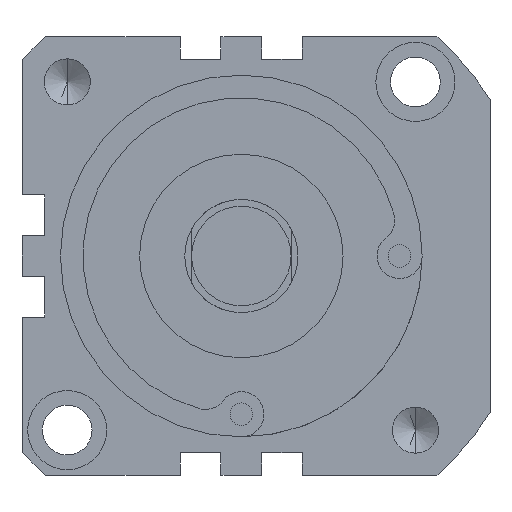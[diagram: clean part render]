
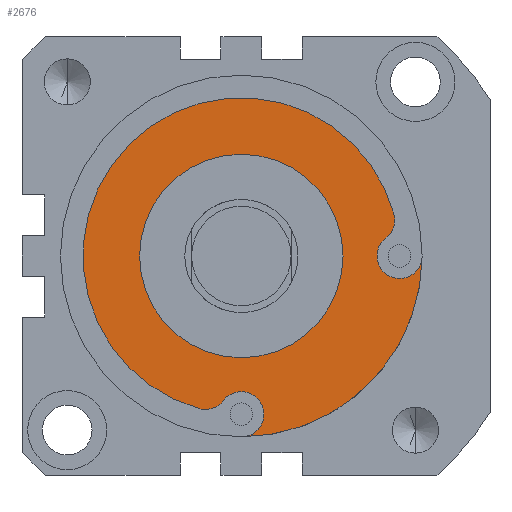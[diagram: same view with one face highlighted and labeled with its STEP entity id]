
A CAD part, front view. The second image highlights one B-rep face of the part: STEP entity #2676.
In plain terms, the highlighted planar face has unit normal (0, -1, 0).
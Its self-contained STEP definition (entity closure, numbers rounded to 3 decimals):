
#44 = EDGE_CURVE ( 'NONE', #718, #3087, #3643, .T. ) ;
#61 = VERTEX_POINT ( 'NONE', #3698 ) ;
#122 = EDGE_CURVE ( 'NONE', #295, #3292, #2520, .T. ) ;
#184 = DIRECTION ( 'NONE',  ( 0., 0., 1. ) ) ;
#189 = ORIENTED_EDGE ( 'NONE', *, *, #2757, .T. ) ;
#238 = AXIS2_PLACEMENT_3D ( 'NONE', #528, #1209, #4198 ) ;
#270 = FACE_BOUND ( 'NONE', #3607, .T. ) ;
#295 = VERTEX_POINT ( 'NONE', #729 ) ;
#302 = ORIENTED_EDGE ( 'NONE', *, *, #4169, .T. ) ;
#312 = CARTESIAN_POINT ( 'NONE',  ( 0., -81.5, 0. ) ) ;
#379 = DIRECTION ( 'NONE',  ( 0., 0., 1. ) ) ;
#386 = CARTESIAN_POINT ( 'NONE',  ( 0., -81.5, 0. ) ) ;
#425 = DIRECTION ( 'NONE',  ( 0., -1., 0. ) ) ;
#502 = CARTESIAN_POINT ( 'NONE',  ( 0., -81.5, -35. ) ) ;
#528 = CARTESIAN_POINT ( 'NONE',  ( -7.946, -81.5, -28.929 ) ) ;
#538 = AXIS2_PLACEMENT_3D ( 'NONE', #312, #2638, #4249 ) ;
#637 = VERTEX_POINT ( 'NONE', #1541 ) ;
#718 = VERTEX_POINT ( 'NONE', #1881 ) ;
#729 = CARTESIAN_POINT ( 'NONE',  ( -9.27, -81.5, -33.75 ) ) ;
#744 = CIRCLE ( 'NONE', #3779, 22.5 ) ;
#900 = EDGE_CURVE ( 'NONE', #637, #61, #4136, .T. ) ;
#1109 = CARTESIAN_POINT ( 'NONE',  ( 0., -81.5, 0. ) ) ;
#1153 = DIRECTION ( 'NONE',  ( 0., 1., 0. ) ) ;
#1167 = AXIS2_PLACEMENT_3D ( 'NONE', #1109, #425, #2439 ) ;
#1209 = DIRECTION ( 'NONE',  ( 0., -1., 0. ) ) ;
#1308 = CARTESIAN_POINT ( 'NONE',  ( -3.973, -81.5, -31.964 ) ) ;
#1358 = CARTESIAN_POINT ( 'NONE',  ( 0., -81.5, 0. ) ) ;
#1410 = EDGE_CURVE ( 'NONE', #637, #2126, #2240, .T. ) ;
#1541 = CARTESIAN_POINT ( 'NONE',  ( 40., -81.5, 0. ) ) ;
#1619 = EDGE_CURVE ( 'NONE', #295, #2429, #2661, .T. ) ;
#1628 = DIRECTION ( 'NONE',  ( 0., 0., 1. ) ) ;
#1660 = CARTESIAN_POINT ( 'NONE',  ( 35., -81.5, 0. ) ) ;
#1720 = AXIS2_PLACEMENT_3D ( 'NONE', #1358, #1997, #379 ) ;
#1730 = ORIENTED_EDGE ( 'NONE', *, *, #122, .T. ) ;
#1881 = CARTESIAN_POINT ( 'NONE',  ( 0., -81.5, -22.5 ) ) ;
#1958 = ORIENTED_EDGE ( 'NONE', *, *, #1410, .T. ) ;
#1980 = CIRCLE ( 'NONE', #238, 5. ) ;
#1997 = DIRECTION ( 'NONE',  ( 0., 1., 0. ) ) ;
#2124 = VERTEX_POINT ( 'NONE', #2658 ) ;
#2126 = VERTEX_POINT ( 'NONE', #3356 ) ;
#2151 = AXIS2_PLACEMENT_3D ( 'NONE', #2846, #2551, #4154 ) ;
#2196 = DIRECTION ( 'NONE',  ( 0., -1., 0. ) ) ;
#2240 = CIRCLE ( 'NONE', #2151, 5. ) ;
#2359 = AXIS2_PLACEMENT_3D ( 'NONE', #1660, #3912, #1628 ) ;
#2405 = FACE_OUTER_BOUND ( 'NONE', #3968, .T. ) ;
#2422 = CARTESIAN_POINT ( 'NONE',  ( 0., -81.5, 22.5 ) ) ;
#2429 = VERTEX_POINT ( 'NONE', #4246 ) ;
#2439 = DIRECTION ( 'NONE',  ( 0., 0., 1. ) ) ;
#2520 = CIRCLE ( 'NONE', #2804, 5. ) ;
#2551 = DIRECTION ( 'NONE',  ( 0., 1., 0. ) ) ;
#2638 = DIRECTION ( 'NONE',  ( 0., 1., 0. ) ) ;
#2658 = CARTESIAN_POINT ( 'NONE',  ( 31.964, -81.5, 3.973 ) ) ;
#2661 = CIRCLE ( 'NONE', #1720, 35. ) ;
#2676 = ADVANCED_FACE ( 'NONE', ( #2405, #270 ), #2752, .T. ) ;
#2746 = CIRCLE ( 'NONE', #2359, 5. ) ;
#2752 = PLANE ( 'NONE',  #1167 ) ;
#2757 = EDGE_CURVE ( 'NONE', #3405, #61, #2841, .T. ) ;
#2804 = AXIS2_PLACEMENT_3D ( 'NONE', #3586, #3567, #3195 ) ;
#2835 = AXIS2_PLACEMENT_3D ( 'NONE', #3833, #2196, #2857 ) ;
#2841 = CIRCLE ( 'NONE', #4096, 5. ) ;
#2846 = CARTESIAN_POINT ( 'NONE',  ( 35., -81.5, 0. ) ) ;
#2857 = DIRECTION ( 'NONE',  ( 0., 0., -1. ) ) ;
#2883 = EDGE_CURVE ( 'NONE', #2124, #2429, #4035, .T. ) ;
#2900 = EDGE_CURVE ( 'NONE', #3292, #3405, #1980, .T. ) ;
#2984 = ORIENTED_EDGE ( 'NONE', *, *, #2883, .T. ) ;
#2989 = EDGE_CURVE ( 'NONE', #3087, #718, #744, .T. ) ;
#3087 = VERTEX_POINT ( 'NONE', #2422 ) ;
#3195 = DIRECTION ( 'NONE',  ( 0., 0., -1. ) ) ;
#3248 = CARTESIAN_POINT ( 'NONE',  ( -7.946, -81.5, -33.929 ) ) ;
#3292 = VERTEX_POINT ( 'NONE', #3248 ) ;
#3356 = CARTESIAN_POINT ( 'NONE',  ( 35., -81.5, -5. ) ) ;
#3405 = VERTEX_POINT ( 'NONE', #1308 ) ;
#3419 = ORIENTED_EDGE ( 'NONE', *, *, #900, .F. ) ;
#3442 = DIRECTION ( 'NONE',  ( 0., 1., 0. ) ) ;
#3567 = DIRECTION ( 'NONE',  ( 0., -1., 0. ) ) ;
#3586 = CARTESIAN_POINT ( 'NONE',  ( -7.946, -81.5, -28.929 ) ) ;
#3605 = DIRECTION ( 'NONE',  ( 0., 0., 1. ) ) ;
#3607 = EDGE_LOOP ( 'NONE', ( #3805, #4148 ) ) ;
#3643 = CIRCLE ( 'NONE', #3744, 22.5 ) ;
#3698 = CARTESIAN_POINT ( 'NONE',  ( 0., -81.5, -40. ) ) ;
#3705 = ORIENTED_EDGE ( 'NONE', *, *, #2900, .T. ) ;
#3744 = AXIS2_PLACEMENT_3D ( 'NONE', #386, #3442, #184 ) ;
#3779 = AXIS2_PLACEMENT_3D ( 'NONE', #3886, #4224, #3605 ) ;
#3805 = ORIENTED_EDGE ( 'NONE', *, *, #44, .T. ) ;
#3833 = CARTESIAN_POINT ( 'NONE',  ( 28.929, -81.5, 7.946 ) ) ;
#3845 = ORIENTED_EDGE ( 'NONE', *, *, #1619, .F. ) ;
#3886 = CARTESIAN_POINT ( 'NONE',  ( 0., -81.5, 0. ) ) ;
#3912 = DIRECTION ( 'NONE',  ( 0., 1., 0. ) ) ;
#3968 = EDGE_LOOP ( 'NONE', ( #1958, #302, #2984, #3845, #1730, #3705, #189, #3419 ) ) ;
#4035 = CIRCLE ( 'NONE', #2835, 5. ) ;
#4096 = AXIS2_PLACEMENT_3D ( 'NONE', #502, #1153, #4112 ) ;
#4112 = DIRECTION ( 'NONE',  ( 0., 0., 1. ) ) ;
#4136 = CIRCLE ( 'NONE', #538, 40. ) ;
#4148 = ORIENTED_EDGE ( 'NONE', *, *, #2989, .T. ) ;
#4154 = DIRECTION ( 'NONE',  ( 0., 0., 1. ) ) ;
#4169 = EDGE_CURVE ( 'NONE', #2126, #2124, #2746, .T. ) ;
#4198 = DIRECTION ( 'NONE',  ( 0., 0., -1. ) ) ;
#4224 = DIRECTION ( 'NONE',  ( 0., 1., 0. ) ) ;
#4246 = CARTESIAN_POINT ( 'NONE',  ( 33.75, -81.5, 9.27 ) ) ;
#4249 = DIRECTION ( 'NONE',  ( 0., 0., 1. ) ) ;
